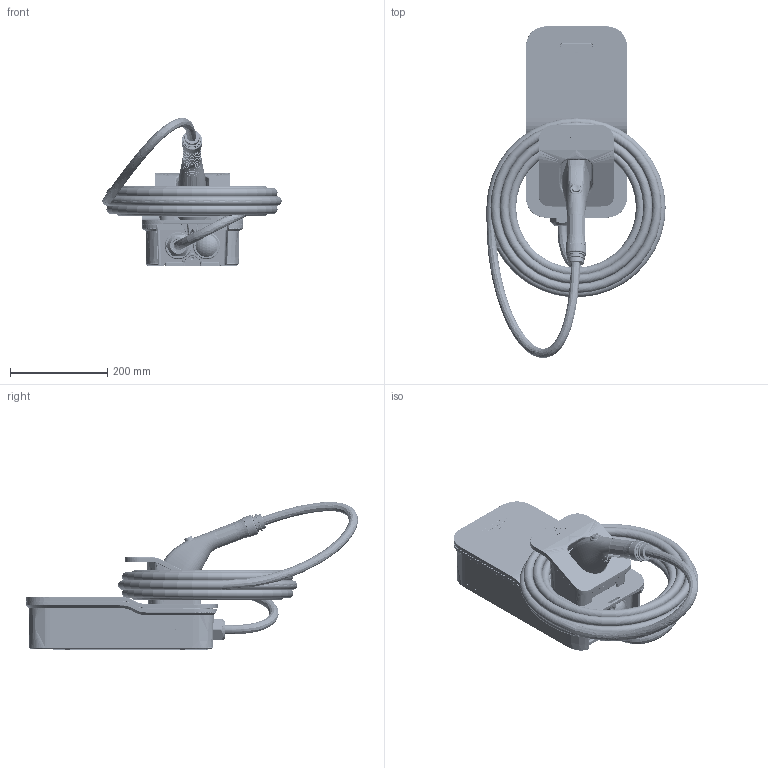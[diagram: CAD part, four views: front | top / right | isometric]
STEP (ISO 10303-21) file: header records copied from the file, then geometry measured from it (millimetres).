
FILE_DESCRIPTION (( 'STEP AP214' ), '1' );
FILE_NAME ('FLO HOME X8, HARDWIRED, J1772, Wall Mount.STEP', '2024-10-31T00:34:13', ( '' ), ( '' ), 'SwSTEP 2.0', 'SolidWorks 2022', '' );
FILE_SCHEMA (( 'AUTOMOTIVE_DESIGN' ));
Length unit declared in the file: millimetre
Products named in the file (1): FLO HOME X8, HARDWIRED, J1772, Wall Mount
Bounding box: 367.92 x 681.59 x 303.61 mm (x, y, z)
Surface area: 1447979.3 mm2 (no closed solid volume)
Topology: 0 solids, 47 shells, 8771 faces, 22028 edges, 13270 vertices
Faces by surface type: bspline 3551, cylinder 2273, plane 1867, cone 430, torus 395, sphere 255
Entity records: 572366 total; most frequent: CARTESIAN_POINT 299744, ORIENTED_EDGE 43321, DIRECTION 28270, EDGE_CURVE 21875, VERTEX_POINT 13260, AXIS2_PLACEMENT_3D 10951, EDGE_LOOP 8956, UNCERTAINTY_MEASURE_WITH_UNIT 8788
